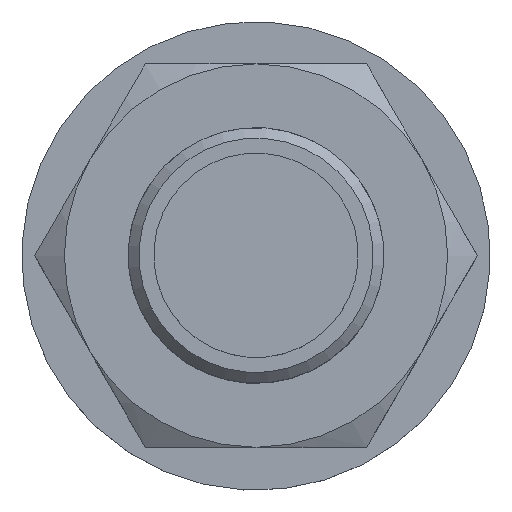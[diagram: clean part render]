
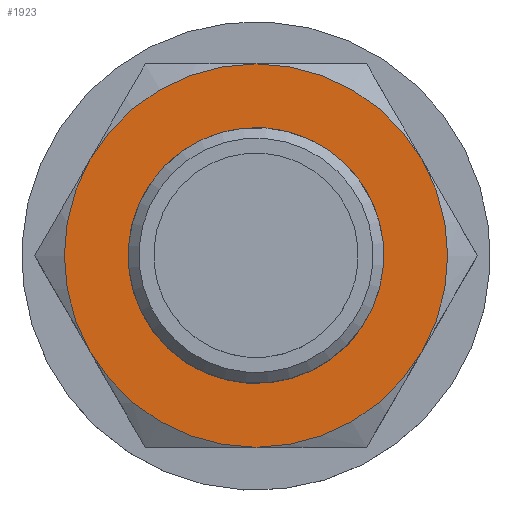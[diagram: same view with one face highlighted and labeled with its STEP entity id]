
A CAD part, top view. The second image highlights one B-rep face of the part: STEP entity #1923.
In plain terms, the highlighted planar face has unit normal (0, 0, 1).
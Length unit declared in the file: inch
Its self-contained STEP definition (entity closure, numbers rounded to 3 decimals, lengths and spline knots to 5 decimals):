
#364=FACE_BOUND('',#524,.T.);
#396=FACE_OUTER_BOUND('',#523,.T.);
#523=EDGE_LOOP('',(#1223,#1224,#1225,#1226,#1227,#1228));
#524=EDGE_LOOP('',(#1229));
#673=CIRCLE('',#2056,0.37513);
#675=CIRCLE('',#2060,0.5625);
#676=CIRCLE('',#2061,0.5625);
#677=CIRCLE('',#2062,0.5625);
#678=CIRCLE('',#2063,0.5625);
#679=CIRCLE('',#2064,0.5625);
#680=CIRCLE('',#2065,0.5625);
#765=VERTEX_POINT('',#2719);
#767=VERTEX_POINT('',#2725);
#768=VERTEX_POINT('',#2726);
#769=VERTEX_POINT('',#2728);
#770=VERTEX_POINT('',#2730);
#771=VERTEX_POINT('',#2732);
#772=VERTEX_POINT('',#2734);
#944=EDGE_CURVE('',#765,#765,#673,.T.);
#946=EDGE_CURVE('',#767,#768,#675,.T.);
#947=EDGE_CURVE('',#768,#769,#676,.T.);
#948=EDGE_CURVE('',#769,#770,#677,.T.);
#949=EDGE_CURVE('',#770,#771,#678,.T.);
#950=EDGE_CURVE('',#771,#772,#679,.T.);
#951=EDGE_CURVE('',#772,#767,#680,.T.);
#1223=ORIENTED_EDGE('',*,*,#946,.T.);
#1224=ORIENTED_EDGE('',*,*,#947,.T.);
#1225=ORIENTED_EDGE('',*,*,#948,.T.);
#1226=ORIENTED_EDGE('',*,*,#949,.T.);
#1227=ORIENTED_EDGE('',*,*,#950,.T.);
#1228=ORIENTED_EDGE('',*,*,#951,.T.);
#1229=ORIENTED_EDGE('',*,*,#944,.F.);
#1757=PLANE('',#2059);
#1923=ADVANCED_FACE('',(#396,#364),#1757,.T.);
#2056=AXIS2_PLACEMENT_3D('',#2720,#2264,#2265);
#2059=AXIS2_PLACEMENT_3D('',#2724,#2270,#2271);
#2060=AXIS2_PLACEMENT_3D('',#2727,#2272,#2273);
#2061=AXIS2_PLACEMENT_3D('',#2729,#2274,#2275);
#2062=AXIS2_PLACEMENT_3D('',#2731,#2276,#2277);
#2063=AXIS2_PLACEMENT_3D('',#2733,#2278,#2279);
#2064=AXIS2_PLACEMENT_3D('',#2735,#2280,#2281);
#2065=AXIS2_PLACEMENT_3D('',#2736,#2282,#2283);
#2264=DIRECTION('center_axis',(0.,0.,
1.));
#2265=DIRECTION('ref_axis',(-0.866,-0.5,0.));
#2270=DIRECTION('center_axis',(0.,0.,
1.));
#2271=DIRECTION('ref_axis',(0.866,0.5,0.));
#2272=DIRECTION('center_axis',(0.,0.,
1.));
#2273=DIRECTION('ref_axis',(-0.5,0.866,0.));
#2274=DIRECTION('center_axis',(0.,0.,
1.));
#2275=DIRECTION('ref_axis',(-0.5,0.866,0.));
#2276=DIRECTION('center_axis',(0.,0.,
1.));
#2277=DIRECTION('ref_axis',(-0.5,0.866,0.));
#2278=DIRECTION('center_axis',(0.,0.,
1.));
#2279=DIRECTION('ref_axis',(-0.5,0.866,0.));
#2280=DIRECTION('center_axis',(0.,0.,
1.));
#2281=DIRECTION('ref_axis',(-0.5,0.866,0.));
#2282=DIRECTION('center_axis',(0.,0.,
1.));
#2283=DIRECTION('ref_axis',(-0.5,0.866,0.));
#2719=CARTESIAN_POINT('',(0.32487,0.18756,7.991));
#2720=CARTESIAN_POINT('Origin',(0.,0.,
7.991));
#2724=CARTESIAN_POINT('Origin',(0.,0.,
7.991));
#2725=CARTESIAN_POINT('',(0.48714,-0.28125,7.991));
#2726=CARTESIAN_POINT('',(0.48714,0.28125,7.991));
#2727=CARTESIAN_POINT('Origin',(0.,0.,
7.991));
#2728=CARTESIAN_POINT('',(0.,0.5625,7.991));
#2729=CARTESIAN_POINT('Origin',(0.,0.,
7.991));
#2730=CARTESIAN_POINT('',(-0.48714,0.28125,7.991));
#2731=CARTESIAN_POINT('Origin',(0.,0.,
7.991));
#2732=CARTESIAN_POINT('',(-0.48714,-0.28125,7.991));
#2733=CARTESIAN_POINT('Origin',(0.,0.,
7.991));
#2734=CARTESIAN_POINT('',(0.,-0.5625,7.991));
#2735=CARTESIAN_POINT('Origin',(0.,0.,
7.991));
#2736=CARTESIAN_POINT('Origin',(0.,0.,
7.991));
